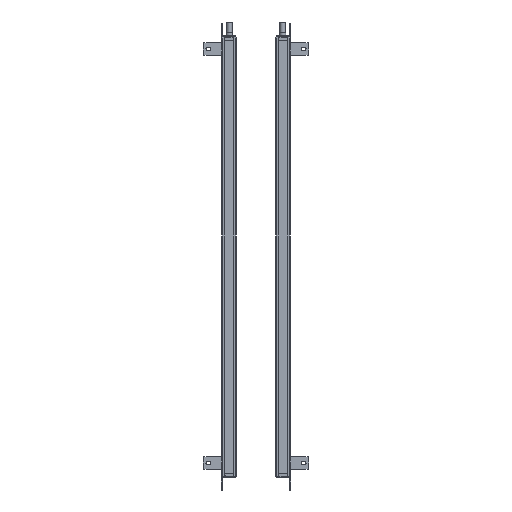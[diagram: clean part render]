
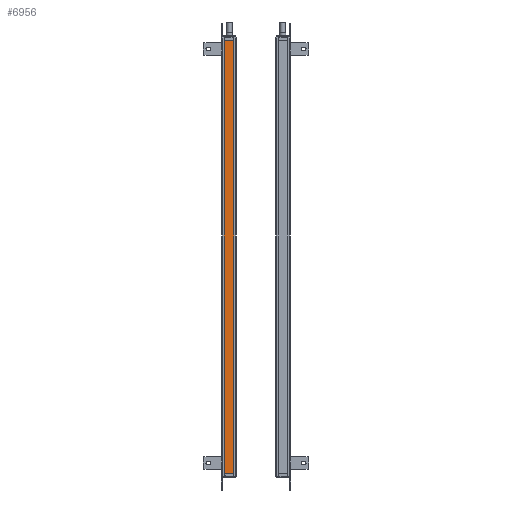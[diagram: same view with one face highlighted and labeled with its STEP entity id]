
A CAD part, left-side view. The second image highlights one B-rep face of the part: STEP entity #6956.
In plain terms, the highlighted planar face has unit normal (-1, 0, 0).
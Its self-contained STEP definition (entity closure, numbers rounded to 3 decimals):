
#953=FACE_OUTER_BOUND('',#9034,.T.);
#2188=LINE('',#33710,#4326);
#2290=LINE('',#34050,#4428);
#2291=LINE('',#34052,#4429);
#2292=LINE('',#34054,#4430);
#4326=VECTOR('',#26897,1.);
#4428=VECTOR('',#27185,1.);
#4429=VECTOR('',#27188,1.);
#4430=VECTOR('',#27189,1.);
#6178=PLANE('',#23723);
#6956=ADVANCED_FACE('',(#953),#6178,.T.);
#9034=EDGE_LOOP('',(#11681,#11682,#11683,#11684));
#11681=ORIENTED_EDGE('',*,*,#19828,.F.);
#11682=ORIENTED_EDGE('',*,*,#19829,.T.);
#11683=ORIENTED_EDGE('',*,*,#19830,.T.);
#11684=ORIENTED_EDGE('',*,*,#19658,.F.);
#17203=VERTEX_POINT('',#33709);
#17204=VERTEX_POINT('',#33711);
#17348=VERTEX_POINT('',#34049);
#17349=VERTEX_POINT('',#34053);
#19658=EDGE_CURVE('',#17203,#17204,#2188,.T.);
#19828=EDGE_CURVE('',#17348,#17203,#2290,.T.);
#19829=EDGE_CURVE('',#17348,#17349,#2291,.T.);
#19830=EDGE_CURVE('',#17349,#17204,#2292,.T.);
#23723=AXIS2_PLACEMENT_3D('',#34055,#27190,#27191);
#26897=DIRECTION('',(0.,-1.,0.));
#27185=DIRECTION('',(0.,0.,1.));
#27188=DIRECTION('',(0.,-1.,0.));
#27189=DIRECTION('',(0.,0.,1.));
#27190=DIRECTION('',(-1.,0.,0.));
#27191=DIRECTION('',(0.,-1.,0.));
#33709=CARTESIAN_POINT('',(233.846,104.141,31.645));
#33710=CARTESIAN_POINT('',(233.846,81.141,31.645));
#33711=CARTESIAN_POINT('',(233.846,81.141,31.645));
#34049=CARTESIAN_POINT('',(233.846,104.141,-1023.355));
#34050=CARTESIAN_POINT('',(233.846,104.141,-155.355));
#34052=CARTESIAN_POINT('',(233.846,81.141,-1023.355));
#34053=CARTESIAN_POINT('',(233.846,81.141,-1023.355));
#34054=CARTESIAN_POINT('',(233.846,81.141,-155.355));
#34055=CARTESIAN_POINT('',(233.846,81.141,-50.355));
